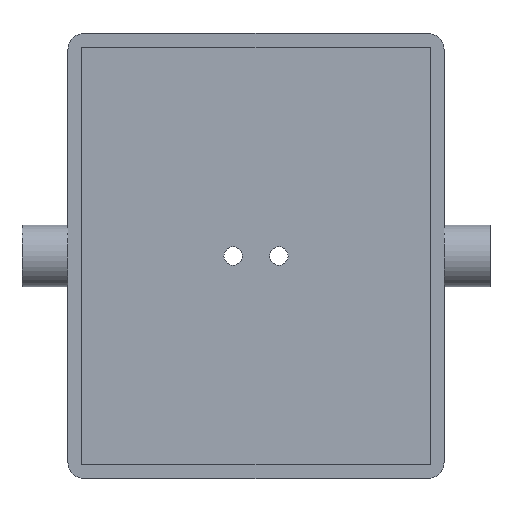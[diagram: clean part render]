
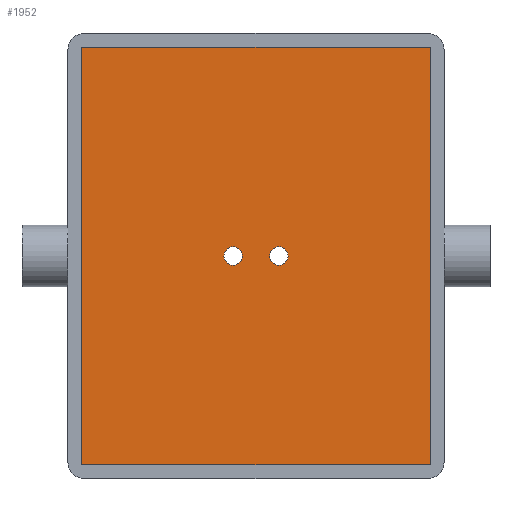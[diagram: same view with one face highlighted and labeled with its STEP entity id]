
A CAD part, top view. The second image highlights one B-rep face of the part: STEP entity #1952.
In plain terms, the highlighted planar face has unit normal (0, 0, 1).
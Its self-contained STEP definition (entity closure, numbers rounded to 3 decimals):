
#600 = CYLINDRICAL_SURFACE('',#601,0.8);
#601 = AXIS2_PLACEMENT_3D('',#602,#603,#604);
#602 = CARTESIAN_POINT('',(-2.,149.2,15.5));
#603 = DIRECTION('',(0.,0.,1.));
#604 = DIRECTION('',(1.,0.,-0.));
#631 = CYLINDRICAL_SURFACE('',#632,0.8);
#632 = AXIS2_PLACEMENT_3D('',#633,#634,#635);
#633 = CARTESIAN_POINT('',(2.,149.2,15.5));
#634 = DIRECTION('',(0.,0.,1.));
#635 = DIRECTION('',(1.,0.,-0.));
#1565 = EDGE_CURVE('',#1566,#1566,#1568,.T.);
#1566 = VERTEX_POINT('',#1567);
#1567 = CARTESIAN_POINT('',(-1.2,149.2,16.7));
#1568 = SURFACE_CURVE('',#1569,(#1574,#1581),.PCURVE_S1.);
#1569 = CIRCLE('',#1570,0.8);
#1570 = AXIS2_PLACEMENT_3D('',#1571,#1572,#1573);
#1571 = CARTESIAN_POINT('',(-2.,149.2,16.7));
#1572 = DIRECTION('',(0.,0.,1.));
#1573 = DIRECTION('',(1.,0.,-0.));
#1574 = PCURVE('',#600,#1575);
#1575 = DEFINITIONAL_REPRESENTATION('',(#1576),#1580);
#1576 = LINE('',#1577,#1578);
#1577 = CARTESIAN_POINT('',(0.,1.2));
#1578 = VECTOR('',#1579,1.);
#1579 = DIRECTION('',(1.,0.));
#1580 = ( GEOMETRIC_REPRESENTATION_CONTEXT(2) 
PARAMETRIC_REPRESENTATION_CONTEXT() REPRESENTATION_CONTEXT('2D SPACE',''
  ) );
#1581 = PCURVE('',#1582,#1587);
#1582 = PLANE('',#1583);
#1583 = AXIS2_PLACEMENT_3D('',#1584,#1585,#1586);
#1584 = CARTESIAN_POINT('',(-15.2,131.,16.7));
#1585 = DIRECTION('',(0.,0.,1.));
#1586 = DIRECTION('',(1.,0.,-0.));
#1587 = DEFINITIONAL_REPRESENTATION('',(#1588),#1592);
#1588 = CIRCLE('',#1589,0.8);
#1589 = AXIS2_PLACEMENT_2D('',#1590,#1591);
#1590 = CARTESIAN_POINT('',(13.2,18.2));
#1591 = DIRECTION('',(1.,0.));
#1592 = ( GEOMETRIC_REPRESENTATION_CONTEXT(2) 
PARAMETRIC_REPRESENTATION_CONTEXT() REPRESENTATION_CONTEXT('2D SPACE',''
  ) );
#1620 = EDGE_CURVE('',#1621,#1621,#1623,.T.);
#1621 = VERTEX_POINT('',#1622);
#1622 = CARTESIAN_POINT('',(2.8,149.2,16.7));
#1623 = SURFACE_CURVE('',#1624,(#1629,#1636),.PCURVE_S1.);
#1624 = CIRCLE('',#1625,0.8);
#1625 = AXIS2_PLACEMENT_3D('',#1626,#1627,#1628);
#1626 = CARTESIAN_POINT('',(2.,149.2,16.7));
#1627 = DIRECTION('',(0.,0.,1.));
#1628 = DIRECTION('',(1.,0.,-0.));
#1629 = PCURVE('',#631,#1630);
#1630 = DEFINITIONAL_REPRESENTATION('',(#1631),#1635);
#1631 = LINE('',#1632,#1633);
#1632 = CARTESIAN_POINT('',(0.,1.2));
#1633 = VECTOR('',#1634,1.);
#1634 = DIRECTION('',(1.,0.));
#1635 = ( GEOMETRIC_REPRESENTATION_CONTEXT(2) 
PARAMETRIC_REPRESENTATION_CONTEXT() REPRESENTATION_CONTEXT('2D SPACE',''
  ) );
#1636 = PCURVE('',#1582,#1637);
#1637 = DEFINITIONAL_REPRESENTATION('',(#1638),#1642);
#1638 = CIRCLE('',#1639,0.8);
#1639 = AXIS2_PLACEMENT_2D('',#1640,#1641);
#1640 = CARTESIAN_POINT('',(17.2,18.2));
#1641 = DIRECTION('',(1.,0.));
#1642 = ( GEOMETRIC_REPRESENTATION_CONTEXT(2) 
PARAMETRIC_REPRESENTATION_CONTEXT() REPRESENTATION_CONTEXT('2D SPACE',''
  ) );
#1776 = PLANE('',#1777);
#1777 = AXIS2_PLACEMENT_3D('',#1778,#1779,#1780);
#1778 = CARTESIAN_POINT('',(-15.2,131.,16.7));
#1779 = DIRECTION('',(-0.,1.,0.));
#1780 = DIRECTION('',(0.,0.,1.));
#1802 = PLANE('',#1803);
#1803 = AXIS2_PLACEMENT_3D('',#1804,#1805,#1806);
#1804 = CARTESIAN_POINT('',(-15.2,131.,16.7));
#1805 = DIRECTION('',(1.,0.,-0.));
#1806 = DIRECTION('',(0.,0.,1.));
#1828 = PLANE('',#1829);
#1829 = AXIS2_PLACEMENT_3D('',#1830,#1831,#1832);
#1830 = CARTESIAN_POINT('',(-15.2,167.4,16.7));
#1831 = DIRECTION('',(-0.,1.,0.));
#1832 = DIRECTION('',(0.,0.,1.));
#1852 = PLANE('',#1853);
#1853 = AXIS2_PLACEMENT_3D('',#1854,#1855,#1856);
#1854 = CARTESIAN_POINT('',(15.2,131.,16.7));
#1855 = DIRECTION('',(1.,0.,-0.));
#1856 = DIRECTION('',(0.,0.,1.));
#1952 = ADVANCED_FACE('',(#1953,#2047,#2050),#1582,.T.);
#1953 = FACE_BOUND('',#1954,.T.);
#1954 = EDGE_LOOP('',(#1955,#1980,#2003,#2026));
#1955 = ORIENTED_EDGE('',*,*,#1956,.F.);
#1956 = EDGE_CURVE('',#1957,#1959,#1961,.T.);
#1957 = VERTEX_POINT('',#1958);
#1958 = CARTESIAN_POINT('',(-15.2,131.,16.7));
#1959 = VERTEX_POINT('',#1960);
#1960 = CARTESIAN_POINT('',(-15.2,167.4,16.7));
#1961 = SURFACE_CURVE('',#1962,(#1966,#1973),.PCURVE_S1.);
#1962 = LINE('',#1963,#1964);
#1963 = CARTESIAN_POINT('',(-15.2,131.,16.7));
#1964 = VECTOR('',#1965,1.);
#1965 = DIRECTION('',(-0.,1.,0.));
#1966 = PCURVE('',#1582,#1967);
#1967 = DEFINITIONAL_REPRESENTATION('',(#1968),#1972);
#1968 = LINE('',#1969,#1970);
#1969 = CARTESIAN_POINT('',(0.,0.));
#1970 = VECTOR('',#1971,1.);
#1971 = DIRECTION('',(0.,1.));
#1972 = ( GEOMETRIC_REPRESENTATION_CONTEXT(2) 
PARAMETRIC_REPRESENTATION_CONTEXT() REPRESENTATION_CONTEXT('2D SPACE',''
  ) );
#1973 = PCURVE('',#1802,#1974);
#1974 = DEFINITIONAL_REPRESENTATION('',(#1975),#1979);
#1975 = LINE('',#1976,#1977);
#1976 = CARTESIAN_POINT('',(0.,0.));
#1977 = VECTOR('',#1978,1.);
#1978 = DIRECTION('',(0.,-1.));
#1979 = ( GEOMETRIC_REPRESENTATION_CONTEXT(2) 
PARAMETRIC_REPRESENTATION_CONTEXT() REPRESENTATION_CONTEXT('2D SPACE',''
  ) );
#1980 = ORIENTED_EDGE('',*,*,#1981,.T.);
#1981 = EDGE_CURVE('',#1957,#1982,#1984,.T.);
#1982 = VERTEX_POINT('',#1983);
#1983 = CARTESIAN_POINT('',(15.2,131.,16.7));
#1984 = SURFACE_CURVE('',#1985,(#1989,#1996),.PCURVE_S1.);
#1985 = LINE('',#1986,#1987);
#1986 = CARTESIAN_POINT('',(-15.2,131.,16.7));
#1987 = VECTOR('',#1988,1.);
#1988 = DIRECTION('',(1.,0.,-0.));
#1989 = PCURVE('',#1582,#1990);
#1990 = DEFINITIONAL_REPRESENTATION('',(#1991),#1995);
#1991 = LINE('',#1992,#1993);
#1992 = CARTESIAN_POINT('',(0.,0.));
#1993 = VECTOR('',#1994,1.);
#1994 = DIRECTION('',(1.,0.));
#1995 = ( GEOMETRIC_REPRESENTATION_CONTEXT(2) 
PARAMETRIC_REPRESENTATION_CONTEXT() REPRESENTATION_CONTEXT('2D SPACE',''
  ) );
#1996 = PCURVE('',#1776,#1997);
#1997 = DEFINITIONAL_REPRESENTATION('',(#1998),#2002);
#1998 = LINE('',#1999,#2000);
#1999 = CARTESIAN_POINT('',(0.,0.));
#2000 = VECTOR('',#2001,1.);
#2001 = DIRECTION('',(0.,1.));
#2002 = ( GEOMETRIC_REPRESENTATION_CONTEXT(2) 
PARAMETRIC_REPRESENTATION_CONTEXT() REPRESENTATION_CONTEXT('2D SPACE',''
  ) );
#2003 = ORIENTED_EDGE('',*,*,#2004,.T.);
#2004 = EDGE_CURVE('',#1982,#2005,#2007,.T.);
#2005 = VERTEX_POINT('',#2006);
#2006 = CARTESIAN_POINT('',(15.2,167.4,16.7));
#2007 = SURFACE_CURVE('',#2008,(#2012,#2019),.PCURVE_S1.);
#2008 = LINE('',#2009,#2010);
#2009 = CARTESIAN_POINT('',(15.2,131.,16.7));
#2010 = VECTOR('',#2011,1.);
#2011 = DIRECTION('',(-0.,1.,0.));
#2012 = PCURVE('',#1582,#2013);
#2013 = DEFINITIONAL_REPRESENTATION('',(#2014),#2018);
#2014 = LINE('',#2015,#2016);
#2015 = CARTESIAN_POINT('',(30.4,0.));
#2016 = VECTOR('',#2017,1.);
#2017 = DIRECTION('',(0.,1.));
#2018 = ( GEOMETRIC_REPRESENTATION_CONTEXT(2) 
PARAMETRIC_REPRESENTATION_CONTEXT() REPRESENTATION_CONTEXT('2D SPACE',''
  ) );
#2019 = PCURVE('',#1852,#2020);
#2020 = DEFINITIONAL_REPRESENTATION('',(#2021),#2025);
#2021 = LINE('',#2022,#2023);
#2022 = CARTESIAN_POINT('',(0.,0.));
#2023 = VECTOR('',#2024,1.);
#2024 = DIRECTION('',(0.,-1.));
#2025 = ( GEOMETRIC_REPRESENTATION_CONTEXT(2) 
PARAMETRIC_REPRESENTATION_CONTEXT() REPRESENTATION_CONTEXT('2D SPACE',''
  ) );
#2026 = ORIENTED_EDGE('',*,*,#2027,.F.);
#2027 = EDGE_CURVE('',#1959,#2005,#2028,.T.);
#2028 = SURFACE_CURVE('',#2029,(#2033,#2040),.PCURVE_S1.);
#2029 = LINE('',#2030,#2031);
#2030 = CARTESIAN_POINT('',(-15.2,167.4,16.7));
#2031 = VECTOR('',#2032,1.);
#2032 = DIRECTION('',(1.,0.,-0.));
#2033 = PCURVE('',#1582,#2034);
#2034 = DEFINITIONAL_REPRESENTATION('',(#2035),#2039);
#2035 = LINE('',#2036,#2037);
#2036 = CARTESIAN_POINT('',(0.,36.4));
#2037 = VECTOR('',#2038,1.);
#2038 = DIRECTION('',(1.,0.));
#2039 = ( GEOMETRIC_REPRESENTATION_CONTEXT(2) 
PARAMETRIC_REPRESENTATION_CONTEXT() REPRESENTATION_CONTEXT('2D SPACE',''
  ) );
#2040 = PCURVE('',#1828,#2041);
#2041 = DEFINITIONAL_REPRESENTATION('',(#2042),#2046);
#2042 = LINE('',#2043,#2044);
#2043 = CARTESIAN_POINT('',(0.,0.));
#2044 = VECTOR('',#2045,1.);
#2045 = DIRECTION('',(0.,1.));
#2046 = ( GEOMETRIC_REPRESENTATION_CONTEXT(2) 
PARAMETRIC_REPRESENTATION_CONTEXT() REPRESENTATION_CONTEXT('2D SPACE',''
  ) );
#2047 = FACE_BOUND('',#2048,.T.);
#2048 = EDGE_LOOP('',(#2049));
#2049 = ORIENTED_EDGE('',*,*,#1565,.F.);
#2050 = FACE_BOUND('',#2051,.T.);
#2051 = EDGE_LOOP('',(#2052));
#2052 = ORIENTED_EDGE('',*,*,#1620,.F.);
